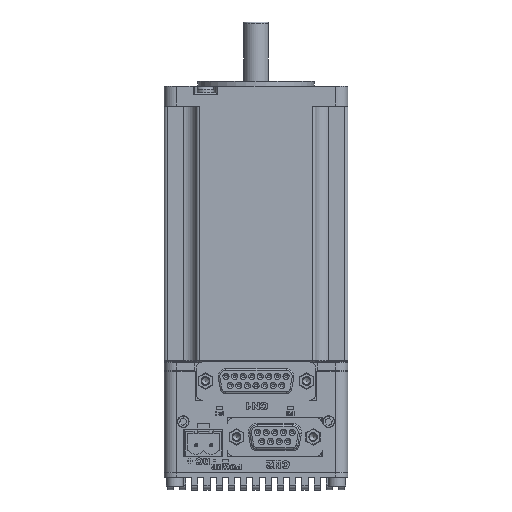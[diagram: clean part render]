
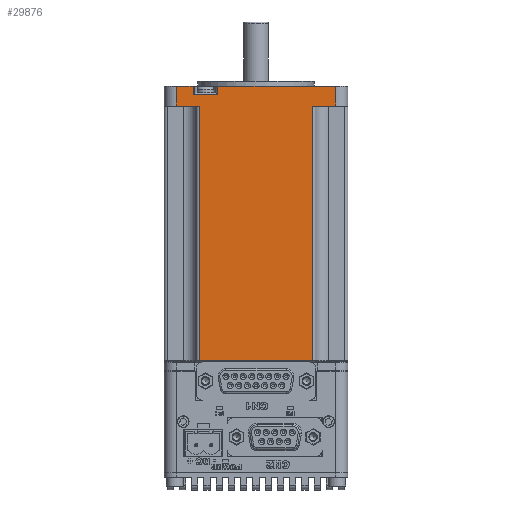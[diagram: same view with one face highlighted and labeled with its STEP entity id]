
A CAD part, top view. The second image highlights one B-rep face of the part: STEP entity #29876.
In plain terms, the highlighted planar face has unit normal (0, 0, 1).
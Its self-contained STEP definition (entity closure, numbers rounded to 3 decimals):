
#3851=ORIENTED_EDGE('',*,*,#8875,.T.);
#3852=ORIENTED_EDGE('',*,*,#8876,.T.);
#3853=ORIENTED_EDGE('',*,*,#8877,.T.);
#3854=ORIENTED_EDGE('',*,*,#8878,.T.);
#3855=ORIENTED_EDGE('',*,*,#8879,.T.);
#3856=ORIENTED_EDGE('',*,*,#8880,.T.);
#3857=ORIENTED_EDGE('',*,*,#8792,.T.);
#3858=ORIENTED_EDGE('',*,*,#8832,.T.);
#3859=ORIENTED_EDGE('',*,*,#8881,.T.);
#3860=ORIENTED_EDGE('',*,*,#8833,.T.);
#3861=ORIENTED_EDGE('',*,*,#8785,.T.);
#3862=ORIENTED_EDGE('',*,*,#8867,.T.);
#8785=EDGE_CURVE('',#11425,#11424,#13543,.T.);
#8792=EDGE_CURVE('',#11431,#11432,#13546,.T.);
#8832=EDGE_CURVE('',#11432,#11460,#13571,.T.);
#8833=EDGE_CURVE('',#11461,#11425,#13572,.F.);
#8867=EDGE_CURVE('',#11424,#11484,#13599,.T.);
#8875=EDGE_CURVE('',#11484,#11489,#13606,.T.);
#8876=EDGE_CURVE('',#11489,#11490,#13607,.F.);
#8877=EDGE_CURVE('',#11490,#11491,#13608,.T.);
#8878=EDGE_CURVE('',#11491,#11492,#13609,.F.);
#8879=EDGE_CURVE('',#11492,#11493,#13610,.T.);
#8880=EDGE_CURVE('',#11493,#11431,#13611,.F.);
#8881=EDGE_CURVE('',#11460,#11461,#13612,.T.);
#11424=VERTEX_POINT('',#43320);
#11425=VERTEX_POINT('',#43322);
#11431=VERTEX_POINT('',#43336);
#11432=VERTEX_POINT('',#43337);
#11460=VERTEX_POINT('',#43417);
#11461=VERTEX_POINT('',#43421);
#11484=VERTEX_POINT('',#43487);
#11489=VERTEX_POINT('',#43505);
#11490=VERTEX_POINT('',#43507);
#11491=VERTEX_POINT('',#43509);
#11492=VERTEX_POINT('',#43511);
#11493=VERTEX_POINT('',#43513);
#13543=LINE('',#43321,#15623);
#13546=LINE('',#43335,#15626);
#13571=LINE('',#43418,#15651);
#13572=LINE('',#43420,#15652);
#13599=LINE('',#43488,#15679);
#13606=LINE('',#43504,#15686);
#13607=LINE('',#43506,#15687);
#13608=LINE('',#43508,#15688);
#13609=LINE('',#43510,#15689);
#13610=LINE('',#43512,#15690);
#13611=LINE('',#43514,#15691);
#13612=LINE('',#43515,#15692);
#15623=VECTOR('',#35007,1000.);
#15626=VECTOR('',#35020,1000.);
#15651=VECTOR('',#35101,1000.);
#15652=VECTOR('',#35104,1000.);
#15679=VECTOR('',#35165,1000.);
#15686=VECTOR('',#35182,1000.);
#15687=VECTOR('',#35183,1000.);
#15688=VECTOR('',#35184,1000.);
#15689=VECTOR('',#35185,1000.);
#15690=VECTOR('',#35186,1000.);
#15691=VECTOR('',#35187,1000.);
#15692=VECTOR('',#35188,1000.);
#17303=EDGE_LOOP('',(#3851,#3852,#3853,#3854,#3855,#3856,#3857,#3858,#3859,
#3860,#3861,#3862));
#18834=FACE_BOUND('',#17303,.T.);
#20114=PLANE('',#31335);
#29876=ADVANCED_FACE('',(#18834),#20114,.F.);
#31335=AXIS2_PLACEMENT_3D('',#43503,#35180,#35181);
#35007=DIRECTION('',(1.,0.,0.));
#35020=DIRECTION('',(1.,0.,0.));
#35101=DIRECTION('',(0.,-1.,0.));
#35104=DIRECTION('',(0.,-1.,0.));
#35165=DIRECTION('',(0.,1.,0.));
#35180=DIRECTION('',(0.,0.,-1.));
#35181=DIRECTION('',(1.,0.,0.));
#35182=DIRECTION('',(-1.,0.,0.));
#35183=DIRECTION('',(0.,1.,0.));
#35184=DIRECTION('',(-1.,0.,0.));
#35185=DIRECTION('',(0.,-1.,0.));
#35186=DIRECTION('',(-1.,0.,0.));
#35187=DIRECTION('',(0.,1.,0.));
#35188=DIRECTION('',(1.,0.,0.));
#43320=CARTESIAN_POINT('',(26.,86.5,60.));
#43321=CARTESIAN_POINT('',(19.5,86.5,60.));
#43322=CARTESIAN_POINT('',(18.5,86.5,60.));
#43335=CARTESIAN_POINT('',(-19.5,86.5,60.));
#43336=CARTESIAN_POINT('',(-26.,86.5,60.));
#43337=CARTESIAN_POINT('',(-18.5,86.5,60.));
#43417=CARTESIAN_POINT('',(-18.5,3.5,60.));
#43418=CARTESIAN_POINT('',(-18.5,82.,60.));
#43420=CARTESIAN_POINT('',(18.5,86.5,60.));
#43421=CARTESIAN_POINT('',(18.5,3.5,60.));
#43487=CARTESIAN_POINT('',(26.,93.,60.));
#43488=CARTESIAN_POINT('',(26.,87.,60.));
#43503=CARTESIAN_POINT('',(30.,87.,60.));
#43504=CARTESIAN_POINT('',(30.,93.,60.));
#43505=CARTESIAN_POINT('',(-12.5,93.,60.));
#43506=CARTESIAN_POINT('',(-12.5,90.7,60.));
#43507=CARTESIAN_POINT('',(-12.5,90.2,60.));
#43508=CARTESIAN_POINT('',(30.,90.2,60.));
#43509=CARTESIAN_POINT('',(-20.5,90.2,60.));
#43510=CARTESIAN_POINT('',(-20.5,93.,60.));
#43511=CARTESIAN_POINT('',(-20.5,93.,60.));
#43512=CARTESIAN_POINT('',(30.,93.,60.));
#43513=CARTESIAN_POINT('',(-26.,93.,60.));
#43514=CARTESIAN_POINT('',(-26.,87.,60.));
#43515=CARTESIAN_POINT('',(18.5,3.5,60.));
